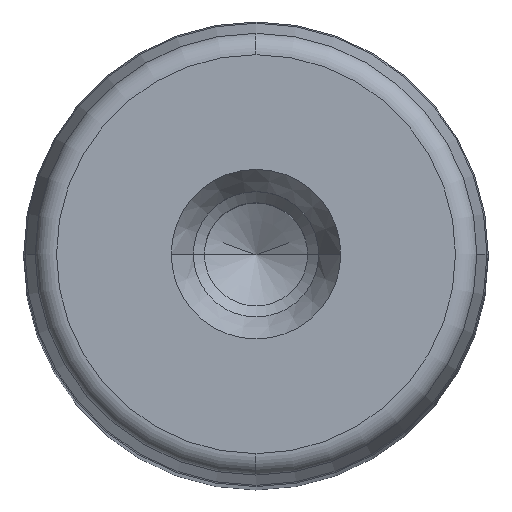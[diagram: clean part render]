
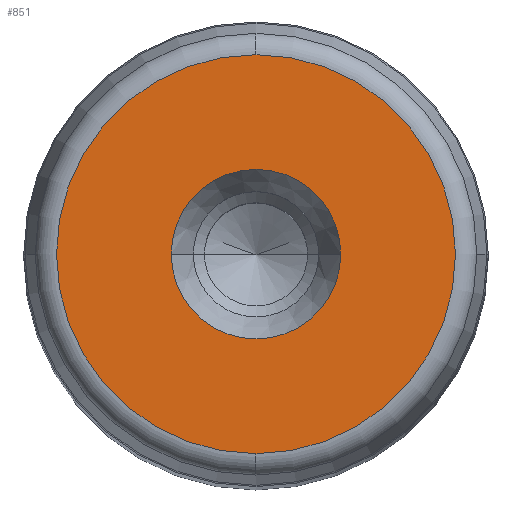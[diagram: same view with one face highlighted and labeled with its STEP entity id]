
A CAD part, top view. The second image highlights one B-rep face of the part: STEP entity #851.
In plain terms, the highlighted planar face has unit normal (0, 0, 1) as drawn and (0, 1, 0) by its records, which use the part's own axes.
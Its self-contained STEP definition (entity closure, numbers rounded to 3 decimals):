
#281=CARTESIAN_POINT('',(11.5,280.0,0.0));
#282=VERTEX_POINT('',#281);
#289=CARTESIAN_POINT('',(-11.5,280.0,0.));
#290=VERTEX_POINT('',#289);
#291=CARTESIAN_POINT('',(0.0,280.0,0.0));
#292=DIRECTION('',(0.0,1.0,0.0));
#293=DIRECTION('',(1.0,0.0,0.0));
#294=AXIS2_PLACEMENT_3D('',#291,#292,#293);
#295=CIRCLE('',#294,11.5);
#296=EDGE_CURVE('',#282,#290,#295,.T.);
#313=CARTESIAN_POINT('',(0.0,280.0,27.054));
#314=VERTEX_POINT('',#313);
#324=CARTESIAN_POINT('',(0.,280.0,-27.054));
#325=VERTEX_POINT('',#324);
#326=CARTESIAN_POINT('',(0.0,280.0,0.0));
#327=DIRECTION('',(0.0,1.0,0.0));
#328=DIRECTION('',(1.0,0.0,0.0));
#329=AXIS2_PLACEMENT_3D('',#326,#327,#328);
#330=CIRCLE('',#329,27.054);
#331=EDGE_CURVE('',#325,#314,#330,.T.);
#812=CARTESIAN_POINT('',(27.054,280.0,0.0));
#813=VERTEX_POINT('',#812);
#814=CARTESIAN_POINT('',(0.0,280.0,0.0));
#815=DIRECTION('',(0.0,1.0,0.0));
#816=DIRECTION('',(1.0,0.0,0.0));
#817=AXIS2_PLACEMENT_3D('',#814,#815,#816);
#818=CIRCLE('',#817,27.054);
#819=EDGE_CURVE('',#813,#325,#818,.T.);
#821=CARTESIAN_POINT('',(0.0,280.0,0.0));
#822=DIRECTION('',(0.0,1.0,0.0));
#823=DIRECTION('',(1.0,0.0,0.0));
#824=AXIS2_PLACEMENT_3D('',#821,#822,#823);
#825=CIRCLE('',#824,27.054);
#826=EDGE_CURVE('',#314,#813,#825,.T.);
#831=CARTESIAN_POINT('',(-29.76,280.0,-29.76));
#832=DIRECTION('',(0.0,1.0,0.0));
#833=DIRECTION('',(0.0,0.0,1.0));
#834=AXIS2_PLACEMENT_3D('',#831,#832,#833);
#835=PLANE('',#834);
#836=ORIENTED_EDGE('',*,*,#819,.T.);
#837=ORIENTED_EDGE('',*,*,#331,.T.);
#838=ORIENTED_EDGE('',*,*,#826,.T.);
#839=EDGE_LOOP('',(#836,#837,#838));
#840=FACE_OUTER_BOUND('',#839,.T.);
#841=ORIENTED_EDGE('',*,*,#296,.F.);
#842=CARTESIAN_POINT('',(0.0,280.0,0.0));
#843=DIRECTION('',(0.0,1.0,0.0));
#844=DIRECTION('',(1.0,0.0,0.0));
#845=AXIS2_PLACEMENT_3D('',#842,#843,#844);
#846=CIRCLE('',#845,11.5);
#847=EDGE_CURVE('',#290,#282,#846,.T.);
#848=ORIENTED_EDGE('',*,*,#847,.F.);
#849=EDGE_LOOP('',(#841,#848));
#850=FACE_BOUND('',#849,.T.);
#851=ADVANCED_FACE('',(#840,#850),#835,.T.);
